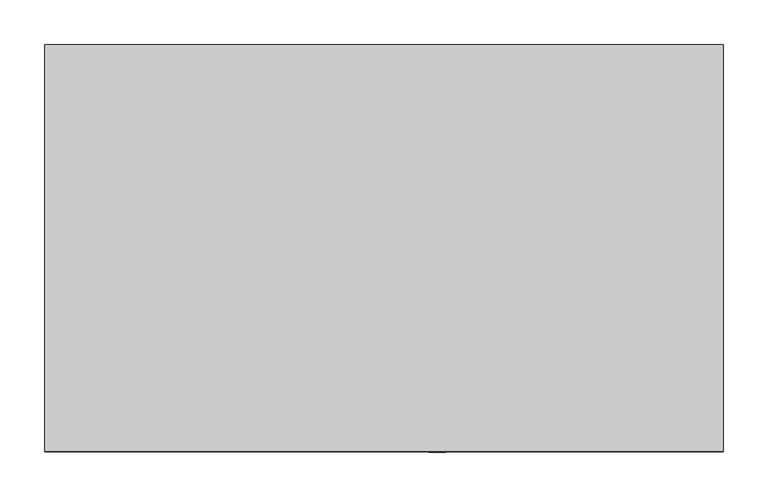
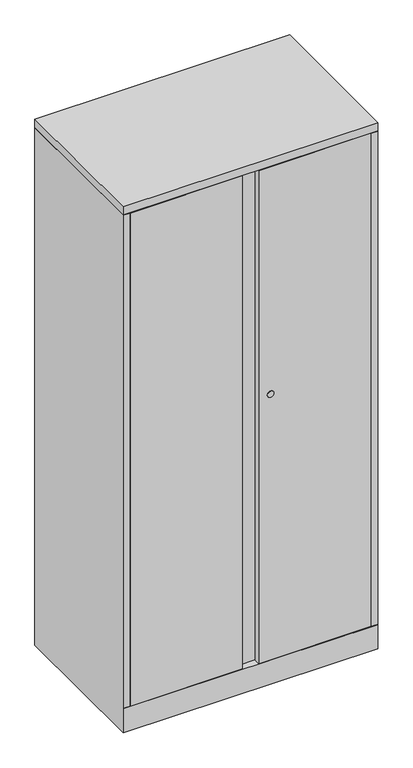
"""IFC4 building model written with IfcOpenShell, lengths in millimetres: furniture geometry, Steelcase - Universal Storage - Cabinet - Storage - 66H-84H - Flush Steel : 65 1/2H x 18D x 30W."""

from ifc_helpers import new_model, si_unit, point, frame, frame_2d, origin, place, context, project, spatial, polyline, circle_curve, trimmed, segment, composite_curve, outline, extrude, faceted_brep, source, transform, mapped, element, save


def furniture_b3c0d5e6(model_context):
    return source(origin(), model_context, "Body", "SolidModel", [
        extrude(outline(polyline([(762.0, 0.0), (762.0, -457.2), (0.0, -457.2), (0.0, 0.0), (762.0, 0.0)])), frame((0.0, 0.0, 1638.3), z_axis=(0.0, 0.0, 1.0), x_axis=(1.0, 0.0, 0.0)), (0.0, 0.0, 1.0), 25.4000484),
        extrude(outline(composite_curve([segment(trimmed(circle_curve(frame_2d((917.575, 440.8109835)), 9.7167829), [point((917.575, 450.5277664))], [point((917.575, 431.0942006))], False, "CARTESIAN"), True, "CONTINUOUS"), segment(trimmed(circle_curve(frame_2d((917.575, 440.8109835)), 9.7167829), [point((917.575, 431.0942006))], [point((917.575, 450.5277664))], False, "CARTESIAN"), True, "CONTINUOUS")], self_intersect=False)), frame((0.0, -457.8695275, 0.0), z_axis=(0.0, 1.0, 0.0), x_axis=(0.0, 0.0, 1.0)), (0.0, 0.0, 1.0), 0.6695275),
        extrude(outline(polyline([(20.8280006, -431.673866), (741.172, -431.673866), (741.172, -457.2), (405.13, -457.2), (405.13, -438.0238781), (356.87, -438.0238781), (356.87, -457.2), (20.8280006, -457.2), (20.8280006, -431.673866)])), frame((0.0, 0.0, 77.724), z_axis=(0.0, 0.0, 1.0), x_axis=(1.0, 0.0, 0.0)), (0.0, 0.0, 1.0), 1559.052),
        faceted_brep([(762.0, 0.0, 0.0), (762.0, -457.2, 0.0), (0.0, -457.2, 0.0), (0.0, 0.0, 0.0), (0.0, 0.0, 1636.776), (762.0, 0.0, 1636.776), (0.0, -457.2, 76.2), (0.0, -457.2, 77.724), (0.0, -457.2, 1636.776), (762.0, -457.2, 76.2), (762.0, -457.2, 1636.776), (762.0, -457.2, 77.724), (736.6000242, -25.4000008, 1636.776), (736.6000242, -430.1498674, 1636.776), (741.172, -430.1498674, 1636.776), (741.172, -431.6738781, 1636.776), (742.696, -431.6738781, 1636.776), (742.696, -457.2, 1636.776), (19.304, -457.2, 1636.776), (19.304, -431.673866, 1636.776), (20.8280006, -431.673866, 1636.776), (20.8280006, -430.1498674, 1636.776), (25.4000008, -430.1498674, 1636.776), (25.4000008, -25.4000008, 1636.776), (19.304, -457.2, 77.724), (19.304, -437.896, 77.724), (742.696, -457.2, 77.724), (742.696, -437.7698418, 77.724), (736.6000242, -25.4000008, 77.724), (736.6000242, -430.1498674, 77.724), (741.172, -430.1498674, 77.724), (741.172, -431.6738781, 77.724), (742.696, -431.6738781, 77.724), (19.304, -431.673866, 77.724), (20.8280006, -431.673866, 77.724), (20.8280006, -430.1498674, 77.724), (25.4000008, -430.1498674, 77.724), (25.4000008, -25.4000008, 77.724), (25.526134, -431.673866, 77.724), (736.6000242, -431.673866, 77.724)], [[[0, 1, 2, 3]], [[0, 3, 4, 5]], [[4, 3, 2, 6, 7, 8]], [[2, 1, 9, 6]], [[1, 0, 5, 10, 11, 9]], [[12, 13, 14, 15, 16, 17, 10, 5, 4, 8, 18, 19, 20, 21, 22, 23]], [[24, 7, 25]], [[11, 26, 27]], [[13, 12, 28, 29]], [[14, 13, 29, 30]], [[15, 14, 30, 31]], [[16, 15, 31, 32]], [[17, 16, 32, 27, 26]], [[10, 17, 26, 11]], [[18, 8, 7, 24]], [[19, 18, 24, 25, 33]], [[20, 19, 33, 34]], [[21, 20, 34, 35]], [[22, 21, 35, 36]], [[23, 22, 36, 37]], [[12, 23, 37, 28]], [[38, 39, 27, 32, 31, 30, 29, 28, 37, 36, 35, 34, 33, 25]], [[7, 6, 38, 25]], [[39, 38, 6, 9]], [[39, 9, 11, 27]]]),
    ])


if __name__ == "__main__":
    model = new_model("IFC4")
    model_context = context("Model", 3, world=origin())
    ifc_project = project(units=[si_unit("LENGTHUNIT", "METRE", prefix="MILLI")], contexts=[model_context])
    site = spatial("IfcSite", under=ifc_project)
    building = spatial("IfcBuilding", under=site)
    placement = place(None, origin())
    furniture_shape = furniture_b3c0d5e6(model_context)
    element("IfcFurniture", 1, ObjectType="Steelcase - Universal Storage - Cabinet - Storage - 66H-84H - Flush Steel : 65 1/2H x 18D x 30W", at=placement, inside=building, context=model_context, shape_type="MappedRepresentation", body=[
        mapped(furniture_shape, transform((0.0, 0.0, 0.0), x_axis=(1.0, 0.0, 0.0), y_axis=(0.0, 1.0, 0.0), z_axis=(0.0, 0.0, 1.0))),
    ])
    save(model, "model.ifc")
